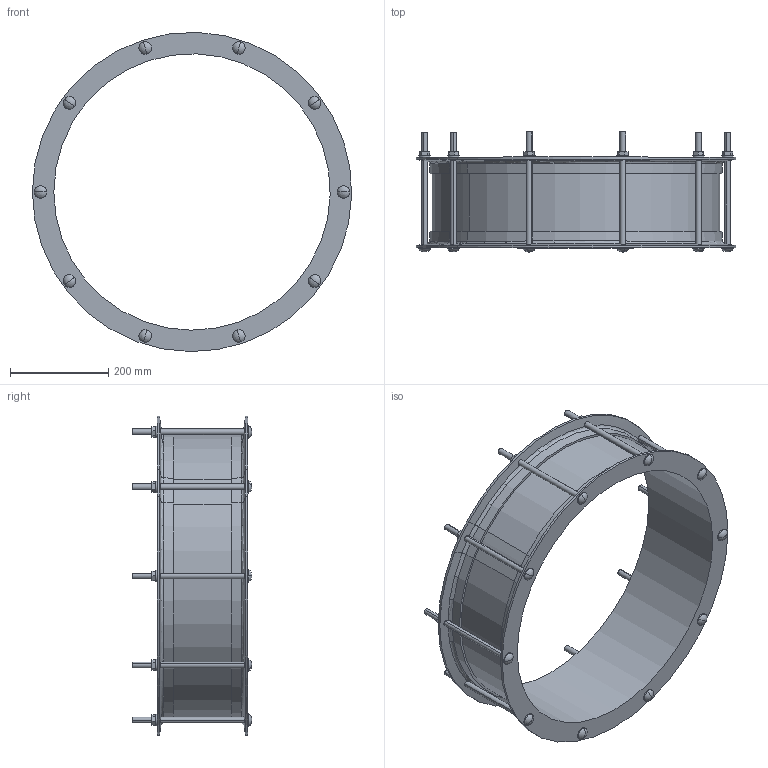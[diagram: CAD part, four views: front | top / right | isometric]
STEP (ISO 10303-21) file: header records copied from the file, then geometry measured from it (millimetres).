
FILE_DESCRIPTION((''),'2;1');
FILE_NAME('LO2_COUP_559','2018-12-06T',('mfairey'),('Glynwed Pipe Systems'),'CREO PARAMETRIC BY PTC INC, 2016130','CREO PARAMETRIC BY PTC INC, 2016130','');
FILE_SCHEMA(('CONFIG_CONTROL_DESIGN'));
Length unit declared in the file: millimetre
Products named in the file (1): LO2_COUP_559
Bounding box: 649.13 x 243.33 x 649.03 mm (x, y, z)
Volume: 5361743.4 mm3; surface area: 1022345.9 mm2
Topology: 1 solids, 1 shells, 214 faces, 568 edges, 358 vertices
Faces by surface type: plane 94, cylinder 88, sphere 20, cone 8, torus 4
Entity records: 7450 total; most frequent: CARTESIAN_POINT 2140, ORIENTED_EDGE 1096, DIRECTION 1088, EDGE_CURVE 548, AXIS2_PLACEMENT_3D 406, VERTEX_POINT 358, VECTOR 276, LINE 276
